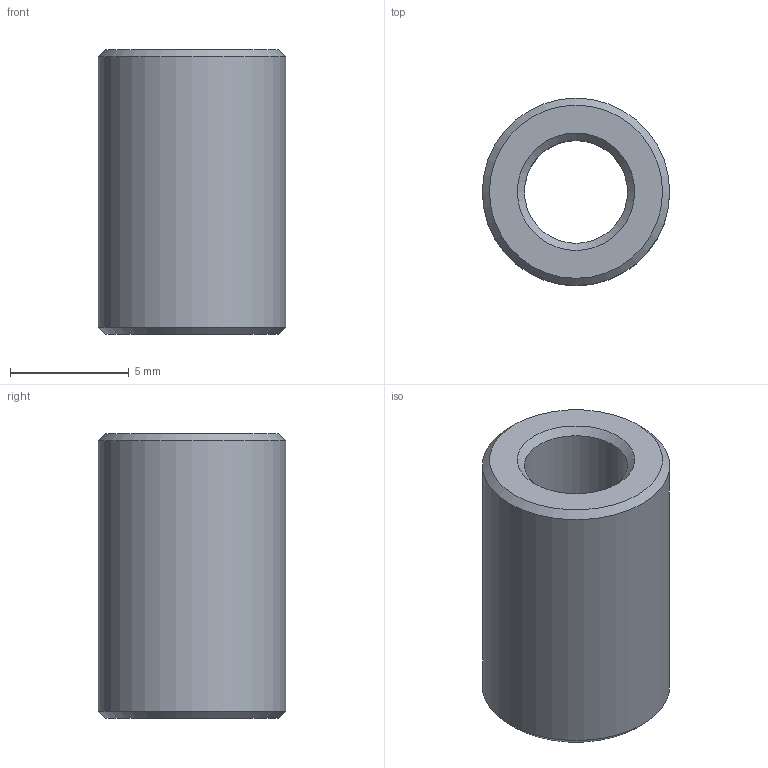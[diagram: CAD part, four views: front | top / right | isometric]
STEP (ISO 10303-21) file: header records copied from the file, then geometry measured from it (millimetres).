
FILE_DESCRIPTION(('Open CASCADE Model'),'2;1');
FILE_NAME('Open CASCADE Shape Model','2026-11-05T10:33:08',('Author'),( 'Open CASCADE'),'Open CASCADE STEP processor 8.0','build123d', 'Unknown');
FILE_SCHEMA(('AUTOMOTIVE_DESIGN { 1 0 10303 214 1 1 1 1 }'));
Length unit declared in the file: millimetre
Products named in the file (1): COMPOUND
Bounding box: 7.9 x 7.9 x 12 mm (x, y, z)
Volume: 406.4 mm3; surface area: 516.6 mm2
Topology: 1 solids, 1 shells, 8 faces, 14 edges, 8 vertices
Faces by surface type: cone 4, cylinder 2, plane 2
Full cylindrical faces by diameter (mm): 4.35 x1, 7.9 x1
Entity records: 382 total; most frequent: CARTESIAN_POINT 67, DIRECTION 60, ORIENTED_EDGE 28, PCURVE 28, DEFINITIONAL_REPRESENTATION 28, LINE 22, VECTOR 22, AXIS2_PLACEMENT_3D 17
